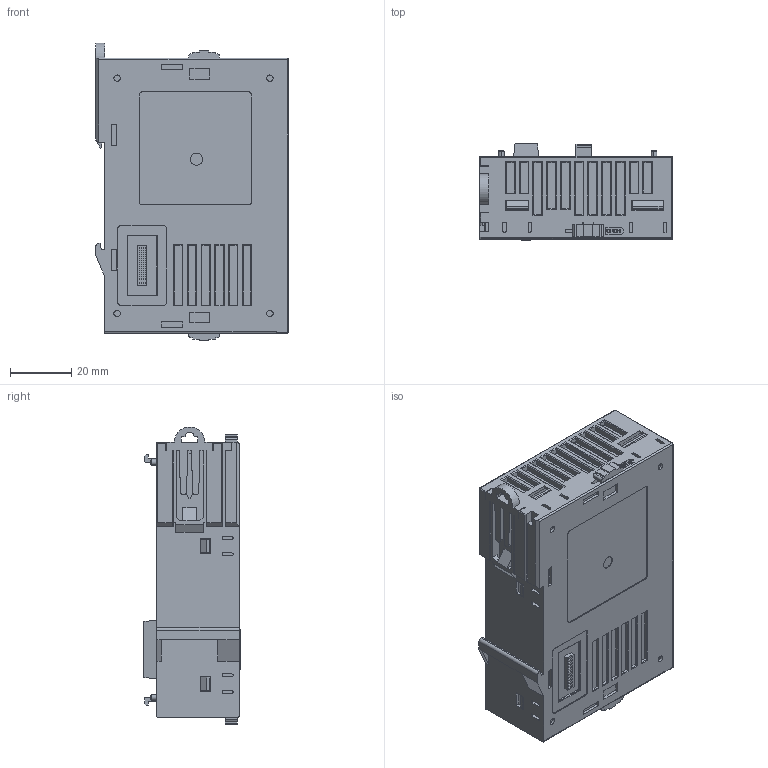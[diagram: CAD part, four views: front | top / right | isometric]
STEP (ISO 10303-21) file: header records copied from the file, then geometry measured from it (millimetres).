
FILE_DESCRIPTION((''),'2;1');
FILE_NAME('00_XBL-EMTA_SW0001','2020-04-20T',('sojoo'),(''),'CREO PARAMETRIC BY PTC INC, 2015380','CREO PARAMETRIC BY PTC INC, 2015380','');
FILE_SCHEMA(('CONFIG_CONTROL_DESIGN'));
Length unit declared in the file: millimetre
Products named in the file (1): 00_XBL-EMTA_SW0001
Bounding box: 63 x 31.58 x 97.5 mm (x, y, z)
Volume: 143305.7 mm3; surface area: 28217.7 mm2
Topology: 1 solids, 1 shells, 1528 faces, 4027 edges, 2581 vertices
Faces by surface type: plane 1406, cylinder 103, sphere 9, cone 9, bspline 1
Entity records: 46246 total; most frequent: CARTESIAN_POINT 8361, ORIENTED_EDGE 8048, DIRECTION 7247, EDGE_CURVE 4024, VECTOR 3757, LINE 3757, VERTEX_POINT 2581, AXIS2_PLACEMENT_3D 1745
